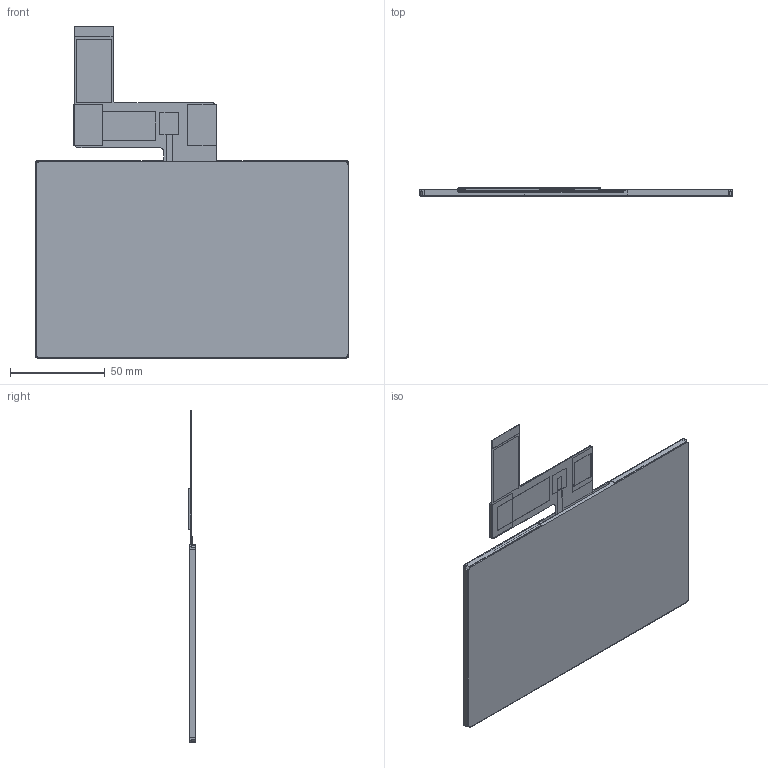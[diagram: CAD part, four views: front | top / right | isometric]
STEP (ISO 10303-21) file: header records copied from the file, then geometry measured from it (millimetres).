
FILE_DESCRIPTION (( 'STEP AP203' ), '1' );
FILE_NAME ('NHD-7.0-800480AF-ASXP_Rev1A-T070800480-C6WMN-011_asm-20240419.STEP', '2024-06-28T20:18:06', ( '' ), ( '' ), 'SwSTEP 2.0', 'SolidWorks 2019', '' );
FILE_SCHEMA (( 'CONFIG_CONTROL_DESIGN' ));
Length unit declared in the file: millimetre
Products named in the file (2): NHD-7.0-800480AF-ASXP_Rev1A-T070800480-C6WMN-011_asm-20240419
Bounding box: 165 x 4.06 x 175 mm (x, y, z)
Volume: 52995.2 mm3; surface area: 93935.7 mm2
Topology: 7 solids, 7 shells, 220 faces, 596 edges, 397 vertices
Faces by surface type: plane 164, cylinder 56
Entity records: 7035 total; most frequent: CARTESIAN_POINT 1215, ORIENTED_EDGE 1192, DIRECTION 1152, EDGE_CURVE 596, VECTOR 484, LINE 484, VERTEX_POINT 397, AXIS2_PLACEMENT_3D 334
